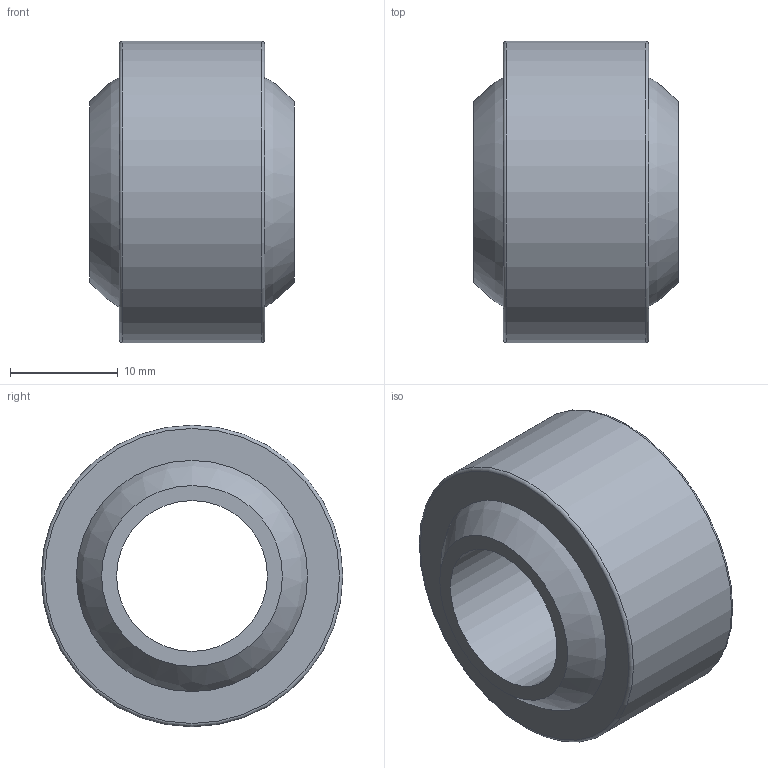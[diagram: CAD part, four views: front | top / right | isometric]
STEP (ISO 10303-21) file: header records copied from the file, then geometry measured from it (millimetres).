
FILE_DESCRIPTION( ( 'STEP AP203' ), '1' );
FILE_NAME( 'C:/Temp/Ganter_Step_05_03_2020/data/3_6/gn_648_8/gn_648_8_w/Ball joint GN 648.8-14-28-W.stp', '2020-03-12T14:14:30', ( 'License CC BY-ND 4.0' ), ( 'CADENAS' ), ' ', 'PARTsolutions', ' ' );
FILE_SCHEMA( ( 'CONFIG_CONTROL_DESIGN' ) );
Length unit declared in the file: millimetre
Products named in the file (3): Ball joint GN 648.8-14-28-W; _Ball joint GN 648.8-14-28-W-2; _Ball joint GN 648.8-14-28-W-1
Assembly tree (2 placements, depth 2):
  Ball joint GN 648.8-14-28-W
    _Ball joint GN 648.8-14-28-W-2
    _Ball joint GN 648.8-14-28-W-1
Bounding box: 19 x 28 x 28 mm (x, y, z)
Volume: 7011 mm3; surface area: 5232.6 mm2
Topology: 2 solids, 2 shells, 10 faces, 16 edges, 10 vertices
Faces by surface type: plane 4, sphere 2, torus 2, cylinder 2
Full cylindrical faces by diameter (mm): 14 x1, 28 x1
Entity records: 320 total; most frequent: DIRECTION 46, CARTESIAN_POINT 33, AXIS2_PLACEMENT_3D 23, EDGE_LOOP 20, ORIENTED_EDGE 20, FACE_OUTER_BOUND 16, CC_DESIGN_PERSON_AND_ORGANIZATION_ASSIGNMENT 13, ADVANCED_FACE 10
